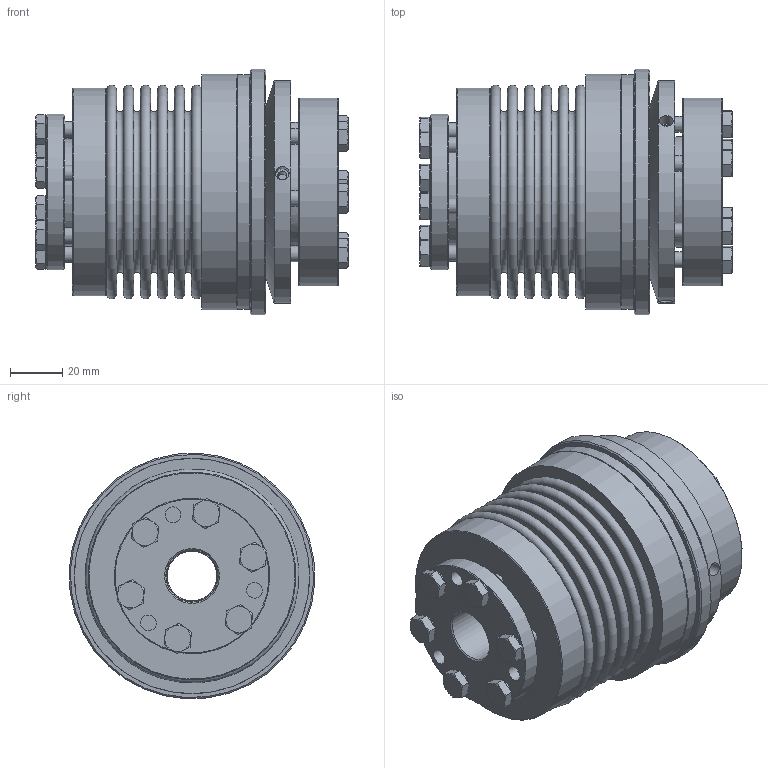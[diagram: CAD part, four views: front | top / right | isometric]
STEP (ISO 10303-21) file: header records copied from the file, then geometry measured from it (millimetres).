
FILE_DESCRIPTION( ( 'Unknown' ), '1' );
FILE_NAME( 'K:/Konstruktion/Korrigierte 3D Modelle/KBK-B-IA/KBK-BIA-80-120.stp', 'Unknown', ( 'Unknown' ), ( 'Unknown' ), 'PSStep 16.0.42', 'Unknown', ' ' );
FILE_SCHEMA( ( 'AUTOMOTIVE_DESIGN { 1 0 10303 214 1 1 1 1 }' ) );
Length unit declared in the file: millimetre
Products named in the file (18): KBK L-A-80 Grundkörper_0; din_en_24017_m6x25_0; Druckring 80_0; Druckring L-A-80_0; Stellring 80_0; BA5-150; Hex Screw GradeC_ISO_ISO 4018 - M6 x 25-WN_4; BA80-150_Standard_4; KB80-150_Standard_4; A-150; Assem1; BL80-150_Standard_3; Flansch BK150
Assembly tree (27 placements, depth 4):
  Assem1
    BL80-150_Standard_3
    Flansch BK150
    BA5-150
      Hex Screw GradeC_ISO_ISO 4018 - M6 x 25-WN_4  x6
      BA80-150_Standard_4
      KB80-150_Standard_4
    A-150
      Stellring 80_0
        Stellring 80_0
      Druckring 80_0
        Druckring 80_0
      KBK L-A-80 Grundkörper_0
        KBK L-A-80 Grundkörper_0
      din_en_24017_m6x25_0  x6
        din_en_24017_m6x25_0
      Druckring L-A-80_0
        Druckring L-A-80_0
Bounding box: 119.4 x 93.88 x 93.88 mm (x, y, z)
Volume: 366951.9 mm3; surface area: 178129.2 mm2
Topology: 20 solids, 20 shells, 477 faces, 987 edges, 616 vertices
Faces by surface type: plane 232, cone 128, cylinder 86, torus 31
Full cylindrical faces by diameter (mm): 3.242 x3, 4.917 x6, 5 x4, 5.2 x3, 6 x21, 6.6 x12, 8.8 x6, 10 x6, 19 x1, 20 x1, 37.5 x1, 40 x2, 41 x1, 42.29 x1, 48 x1, 52 x1, 58 x1, 59.5 x1, 62 x2, 70 x1, 70.7 x2, 71.9 x2, 72 x1, 79.5 x1, 85 x1, 87 x1, 90 x2, 94 x1
Entity records: 8626 total; most frequent: CARTESIAN_POINT 1410, DIRECTION 1130, ORIENTED_EDGE 696, AXIS2_PLACEMENT_3D 538, EDGE_LOOP 484, EDGE_CURVE 348, FACE_OUTER_BOUND 339, VERTEX_POINT 306
